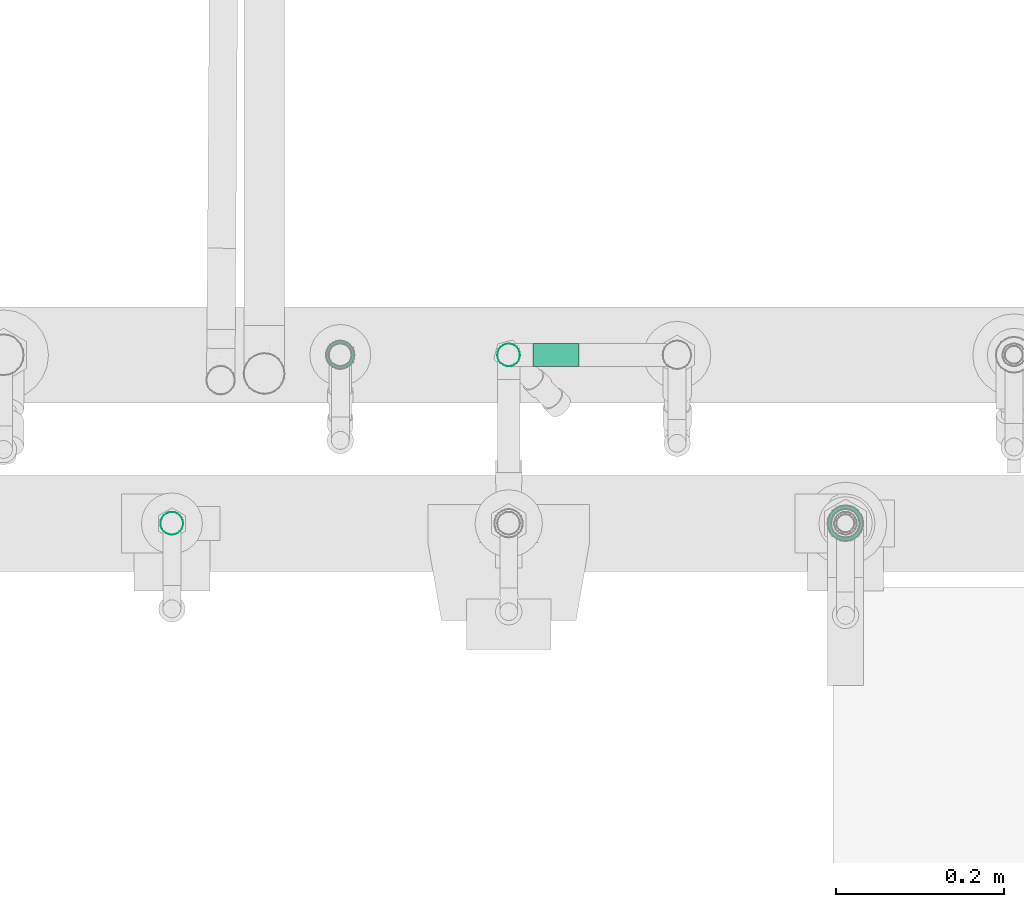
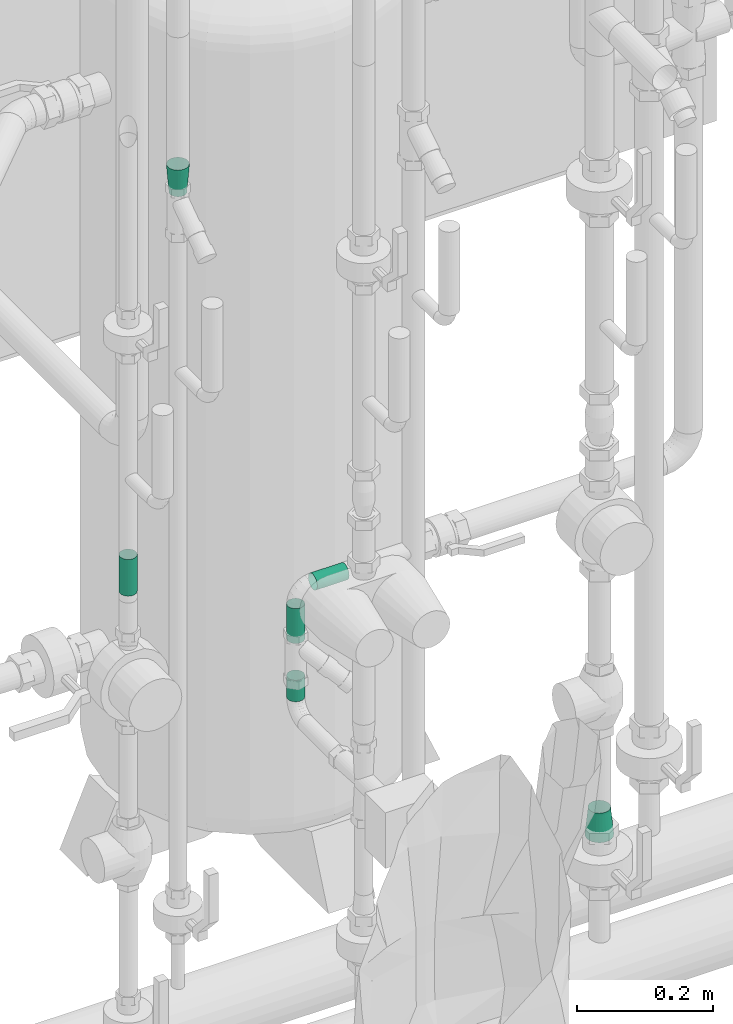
# One storey, part 346 of 374: 4 flow segments, 2 flow fittings.
"""IFC2X3 building model written with IfcOpenShell, lengths in metres."""

from ifc_helpers import new_model, si_unit, direction, origin, place, context, subcontext, project, spatial, open_shell, surface_model, source, transform, mapped, element, save


model = new_model("IFC2X3")

# Units and contexts
model_context = context("Model", 3, precision=1e-05, world=origin(), true_north=direction((-0.4480736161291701, 0.8939966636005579)))
body_context = subcontext(model_context, "Body", "Model", "MODEL_VIEW")
ifc_project = project(units=[si_unit("LENGTHUNIT", "METRE"), si_unit("AREAUNIT", "SQUARE_METRE"), si_unit("VOLUMEUNIT", "CUBIC_METRE"), si_unit("PLANEANGLEUNIT", "RADIAN"), si_unit("THERMODYNAMICTEMPERATUREUNIT", "KELVIN"), si_unit("MASSUNIT", "GRAM", prefix="KILO"), si_unit("TIMEUNIT", "SECOND")], contexts=[model_context])

# Site, building, storey
site_placement = place(None, origin())
site = spatial("IfcSite", under=ifc_project, at=site_placement, Name="Site 1", CompositionType="ELEMENT")
building_placement = place(site_placement, origin())
building = spatial("IfcBuilding", under=site, at=building_placement, Name="Undefined", CompositionType="ELEMENT")
storey_placement = place(building_placement, origin())
storey = spatial("IfcBuildingStorey", under=building, at=storey_placement, Name="Rez de chauss\x8ee", CompositionType="ELEMENT", Elevation=0.0)

# Flow segment
shared_shape_1 = source(origin(), body_context, "Body", "SurfaceModel", [
    surface_model("IfcFaceBasedSurfaceModel", [(0.0, 0.0035111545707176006, 0.0), (0.0, 0.0, 0.0), (0.03853503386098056, 0.0, -7.105427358e-15), (0.03853503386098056, 0.003511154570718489, -7.105427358e-15), (0.0, -0.003391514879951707, -0.0009087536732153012), (0.03853503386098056, -0.003391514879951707, -0.0009087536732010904), (0.0, -0.006432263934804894, -0.0026643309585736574), (0.03853503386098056, -0.006432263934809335, -0.0026643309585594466), (0.0, -0.00891502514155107, -0.005147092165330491), (0.03853503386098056, -0.008915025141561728, -0.005147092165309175), (0.0, -0.010670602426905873, -0.008187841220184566), (0.03853503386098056, -0.010670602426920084, -0.00818784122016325), (0.0, -0.011579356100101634, -0.01157935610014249), (0.03853503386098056, -0.011579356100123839, -0.011579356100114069), (0.0, -0.011579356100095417, -0.015090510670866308), (0.03853503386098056, -0.011579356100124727, -0.015090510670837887), (0.0, -0.010670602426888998, -0.018482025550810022), (0.03853503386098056, -0.01067060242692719, -0.0184820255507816), (0.0, -0.008915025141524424, -0.021522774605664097), (0.03853503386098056, -0.008915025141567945, -0.02152277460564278), (0.0, -0.006432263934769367, -0.02400553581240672), (0.03853503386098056, -0.006432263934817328, -0.02400553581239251), (0.0, -0.0033915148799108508, -0.025761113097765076), (0.03853503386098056, -0.0033915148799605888, -0.025761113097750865), (0.0, 4.2632564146e-14, -0.026669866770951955), (0.03853503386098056, -1.1546319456e-14, -0.02666986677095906), (0.0, 0.0035111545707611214, -0.026669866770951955), (0.03853503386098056, 0.0035111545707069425, -0.026669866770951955), (0.0, 0.006902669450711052, -0.02576111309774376), (0.03853503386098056, 0.006902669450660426, -0.02576111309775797), (0.0, 0.00994341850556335, -0.024005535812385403), (0.03853503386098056, 0.009943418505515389, -0.024005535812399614), (0.0, 0.012426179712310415, -0.02152277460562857), (0.03853503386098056, 0.012426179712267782, -0.021522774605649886), (0.0, 0.014181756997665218, -0.018482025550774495), (0.03853503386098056, 0.014181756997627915, -0.018482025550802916), (0.0, 0.015090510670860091, -0.01509051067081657), (0.03853503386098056, 0.01509051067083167, -0.015090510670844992), (0.0, 0.015090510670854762, -0.011579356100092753), (0.03853503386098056, 0.015090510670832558, -0.01157935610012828), (0.0, 0.014181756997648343, -0.00818784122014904), (0.03853503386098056, 0.014181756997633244, -0.00818784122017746), (0.0, 0.012426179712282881, -0.005147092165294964), (0.03853503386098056, 0.012426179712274, -0.0051470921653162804), (0.0, 0.009943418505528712, -0.002664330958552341), (0.03853503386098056, 0.009943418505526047, -0.002664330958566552), (0.0, 0.006902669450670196, -0.0009087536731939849), (0.03853503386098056, 0.006902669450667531, -0.0009087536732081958)], [open_shell([[[0, 1, 2, 3]], [[1, 4, 5, 2]], [[4, 6, 7, 5]], [[6, 8, 9, 7]], [[8, 10, 11, 9]], [[10, 12, 13, 11]], [[12, 14, 15, 13]], [[14, 16, 17, 15]], [[16, 18, 19, 17]], [[18, 20, 21, 19]], [[20, 22, 23, 21]], [[22, 24, 25, 23]], [[24, 26, 27, 25]], [[26, 28, 29, 27]], [[28, 30, 31, 29]], [[30, 32, 33, 31]], [[32, 34, 35, 33]], [[34, 36, 37, 35]], [[36, 38, 39, 37]], [[38, 40, 41, 39]], [[40, 42, 43, 41]], [[42, 44, 45, 43]], [[44, 46, 47, 45]], [[46, 0, 3, 47]]])]),
])
flow_segment_1_placement = place(storey_placement, origin())
element("IfcFlowSegment", 1, at=flow_segment_1_placement, inside=storey, Name="Tube acier d'après DIN 2448", ObjectType="Tube acier d'après DIN 2448", context=body_context, shape_type="MappedRepresentation", body=[
    mapped(shared_shape_1, transform((53.2445703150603, 10.914555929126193, 0.8053512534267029), x_axis=(0.0, 0.0, 1.0), y_axis=(-0.13052619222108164, 0.9914448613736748, 0.0), z_axis=(-0.9914448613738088, -0.13052619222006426, 0.0))),
])

# Flow fittings
shared_shape_2 = source(origin(), body_context, "Body", "SurfaceModel", [
    surface_model("IfcFaceBasedSurfaceModel", [(0.0, 0.0, 0.0), (0.005534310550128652, 0.0, 0.0), (0.005534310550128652, 0.004604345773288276, 0.0), (-8.8817842e-16, 0.004604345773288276, 7.105427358e-15), (0.010880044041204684, 0.0, -0.0014323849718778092), (0.010880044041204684, 0.004604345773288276, -0.0014323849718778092), (0.015672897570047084, 0.0, -0.004199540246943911), (0.015672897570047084, 0.004604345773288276, -0.004199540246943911), (0.01958624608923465, 0.0, -0.008112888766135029), (0.01958624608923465, 0.004604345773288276, -0.008112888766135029), (0.022353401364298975, 0.0, -0.012905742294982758), (0.022353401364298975, 0.004604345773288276, -0.012905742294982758), (0.023785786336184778, 0.0, -0.018251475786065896), (0.023785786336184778, 0.004604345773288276, -0.018251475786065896), (0.023785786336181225, 0.0, -0.02378578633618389), (0.023785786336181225, 0.004604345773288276, -0.02378578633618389), (0.022353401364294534, 0.0, -0.029131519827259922), (0.022353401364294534, 0.004604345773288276, -0.029131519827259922), (0.019586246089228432, 0.0, -0.033924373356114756), (0.019586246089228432, 0.004604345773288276, -0.033924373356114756), (0.01567289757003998, 0.0, -0.03783772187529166), (0.01567289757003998, 0.004604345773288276, -0.03783772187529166), (0.010880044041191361, 0.0, -0.040604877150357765), (0.010880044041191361, 0.004604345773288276, -0.040604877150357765), (0.005534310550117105, 0.0, -0.04203726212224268), (0.005534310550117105, 0.004604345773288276, -0.04203726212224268), (0.0, 6.4837024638e-14, -0.042037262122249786), (-1.5099033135e-14, 0.004604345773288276, -0.042037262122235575), (-0.0053457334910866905, 0.0, -0.040604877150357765), (-0.0053457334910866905, 0.004604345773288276, -0.040604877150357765), (-0.010138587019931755, 0.0, -0.03783772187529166), (-0.010138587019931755, 0.004604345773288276, -0.03783772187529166), (-0.01405193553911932, 0.0, -0.033924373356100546), (-0.01405193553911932, 0.004604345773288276, -0.033924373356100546), (-0.016819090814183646, 0.0, -0.029131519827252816), (-0.016819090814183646, 0.004604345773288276, -0.029131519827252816), (-0.01825147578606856, 0.0, -0.02378578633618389), (-0.01825147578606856, 0.004604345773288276, -0.02378578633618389), (-0.018251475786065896, 0.0, -0.018251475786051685), (-0.018251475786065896, 0.004604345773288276, -0.018251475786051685), (-0.016819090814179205, 0.0, -0.012905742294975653), (-0.016819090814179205, 0.004604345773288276, -0.012905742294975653), (-0.014051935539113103, 0.0, -0.008112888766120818), (-0.014051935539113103, 0.004604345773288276, -0.008112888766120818), (-0.010138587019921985, 0.0, -0.004199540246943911), (-0.010138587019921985, 0.004604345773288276, -0.004199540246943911), (-0.005345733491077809, 0.0, -0.0014323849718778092), (-0.005345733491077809, 0.004604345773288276, -0.0014323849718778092), (-0.013938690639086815, 0.04589512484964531, -0.018819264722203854), (-0.013938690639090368, 0.04589512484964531, -0.023217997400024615), (-0.012800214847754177, 0.04589512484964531, -0.014570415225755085), (-0.010600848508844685, 0.04589512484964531, -0.010761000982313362), (-0.007490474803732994, 0.04589512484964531, -0.007650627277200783), (-0.003681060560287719, 0.04589512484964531, -0.005451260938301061), (0.0005677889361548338, 0.04589512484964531, -0.004312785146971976), (0.004966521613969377, 0.04589512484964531, -0.004312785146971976), (0.009215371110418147, 0.04589512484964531, -0.005451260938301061), (0.013024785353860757, 0.04589512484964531, -0.007650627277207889), (0.01613515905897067, 0.04589512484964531, -0.010761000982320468), (0.0183345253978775, 0.04589512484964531, -0.014570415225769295), (0.01947300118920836, 0.04589512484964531, -0.018819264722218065), (0.019473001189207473, 0.04589512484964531, -0.023217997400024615), (0.018334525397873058, 0.04589512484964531, -0.02746684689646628), (0.016135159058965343, 0.04589512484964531, -0.03127626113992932), (0.01302478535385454, 0.04589512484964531, -0.03438663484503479), (0.009215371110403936, 0.04589512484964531, -0.03658600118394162), (0.004966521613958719, 0.04589512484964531, -0.03772447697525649), (0.0005677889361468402, 0.04589512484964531, -0.037724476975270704), (-0.0036810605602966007, 0.04589512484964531, -0.03658600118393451), (-0.007490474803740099, 0.04589512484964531, -0.03438663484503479), (-0.01060084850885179, 0.04589512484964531, -0.031276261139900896), (-0.012800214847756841, 0.04589512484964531, -0.027466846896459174), (0.004966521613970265, 0.050000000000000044, -0.004312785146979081), (0.0005677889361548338, 0.050000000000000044, -0.004312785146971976), (0.00921537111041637, 0.050000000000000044, -0.005451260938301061), (0.013024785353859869, 0.050000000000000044, -0.007650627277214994), (0.01613515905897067, 0.050000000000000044, -0.010761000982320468), (0.0183345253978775, 0.050000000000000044, -0.014570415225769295), (0.01947300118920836, 0.050000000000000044, -0.018819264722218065), (0.01947300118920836, 0.050000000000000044, -0.02321799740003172), (0.018334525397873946, 0.050000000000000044, -0.027466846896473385), (0.016135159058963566, 0.050000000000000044, -0.03127626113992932), (0.013024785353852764, 0.050000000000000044, -0.03438663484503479), (0.009215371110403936, 0.050000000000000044, -0.03658600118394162), (0.004966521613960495, 0.050000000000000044, -0.037724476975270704), (0.0005677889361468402, 0.050000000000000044, -0.037724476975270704), (-0.0036810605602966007, 0.050000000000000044, -0.03658600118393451), (-0.007490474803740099, 0.050000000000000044, -0.03438663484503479), (-0.010600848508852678, 0.050000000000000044, -0.031276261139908), (-0.01280021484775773, 0.050000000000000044, -0.02746684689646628), (-0.013938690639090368, 0.050000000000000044, -0.023217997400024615), (-0.013938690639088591, 0.050000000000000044, -0.018819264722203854), (-0.012800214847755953, 0.050000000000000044, -0.014570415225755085), (-0.010600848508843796, 0.050000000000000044, -0.010761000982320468), (-0.007490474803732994, 0.050000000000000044, -0.007650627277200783), (-0.0036810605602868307, 0.050000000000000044, -0.005451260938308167)], [open_shell([[[0, 1, 2, 3]], [[1, 4, 5, 2]], [[4, 6, 7, 5]], [[6, 8, 9, 7]], [[8, 10, 11, 9]], [[10, 12, 13, 11]], [[12, 14, 15, 13]], [[14, 16, 17, 15]], [[16, 18, 19, 17]], [[18, 20, 21, 19]], [[20, 22, 23, 21]], [[22, 24, 25, 23]], [[24, 26, 27, 25]], [[26, 28, 29, 27]], [[28, 30, 31, 29]], [[30, 32, 33, 31]], [[32, 34, 35, 33]], [[34, 36, 37, 35]], [[36, 38, 39, 37]], [[38, 40, 41, 39]], [[40, 42, 43, 41]], [[42, 44, 45, 43]], [[44, 46, 47, 45]], [[46, 0, 3, 47]], [[37, 39, 48, 49]], [[39, 41, 50, 48]], [[41, 43, 51, 50]], [[43, 45, 52, 51]], [[45, 47, 53, 52]], [[47, 3, 54, 53]], [[3, 2, 55, 54]], [[2, 5, 56, 55]], [[5, 7, 57, 56]], [[7, 9, 58, 57]], [[9, 11, 59, 58]], [[11, 13, 60, 59]], [[13, 15, 61, 60]], [[15, 17, 62, 61]], [[17, 19, 63, 62]], [[19, 21, 64, 63]], [[21, 23, 65, 64]], [[23, 25, 66, 65]], [[25, 27, 67, 66]], [[27, 29, 68, 67]], [[29, 31, 69, 68]], [[31, 33, 70, 69]], [[33, 35, 71, 70]], [[35, 37, 49, 71]], [[54, 55, 72, 73]], [[55, 56, 74, 72]], [[56, 57, 75, 74]], [[57, 58, 76, 75]], [[58, 59, 77, 76]], [[59, 60, 78, 77]], [[60, 61, 79, 78]], [[61, 62, 80, 79]], [[62, 63, 81, 80]], [[63, 64, 82, 81]], [[64, 65, 83, 82]], [[65, 66, 84, 83]], [[66, 67, 85, 84]], [[67, 68, 86, 85]], [[68, 69, 87, 86]], [[69, 70, 88, 87]], [[70, 71, 89, 88]], [[71, 49, 90, 89]], [[49, 48, 91, 90]], [[48, 50, 92, 91]], [[50, 51, 93, 92]], [[51, 52, 94, 93]], [[52, 53, 95, 94]], [[53, 54, 73, 95]]])]),
])
flow_fitting_1_placement = place(storey_placement, origin())
element("IfcFlowFitting", 2, at=flow_fitting_1_placement, inside=storey, Name="Réduction", ObjectType="Réduction", context=body_context, shape_type="MappedRepresentation", body=[
    mapped(shared_shape_2, transform((53.636362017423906, 10.718037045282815, 0.53895), x_axis=(0.13052619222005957, -0.9914448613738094, 0.0), y_axis=(0.0, 0.0, 1.0), z_axis=(-0.9914448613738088, -0.13052619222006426, 0.0))),
])
shared_shape_3 = source(origin(), body_context, "Body", "SurfaceModel", [
    surface_model("IfcFaceBasedSurfaceModel", [(0.0, 0.0, 0.0), (0.0035111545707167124, 0.0, 0.0), (0.0035111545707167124, 0.0032802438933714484, 0.0), (-1.776356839e-15, 0.0032802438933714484, 7.105427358e-15), (0.006902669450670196, 0.0, -0.0009087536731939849), (0.006902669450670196, 0.0032802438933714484, -0.0009087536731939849), (0.009943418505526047, 0.0, -0.002664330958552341), (0.009943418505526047, 0.0032802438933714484, -0.002664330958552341), (0.01242617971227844, 0.0, -0.00514709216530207), (0.01242617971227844, 0.0032802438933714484, -0.00514709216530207), (0.014181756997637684, 0.0, -0.00818784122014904), (0.014181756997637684, 0.0032802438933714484, -0.00818784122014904), (0.01509051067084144, 0.0, -0.011579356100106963), (0.01509051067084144, 0.0032802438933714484, -0.011579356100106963), (0.015090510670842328, 0.0, -0.015090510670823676), (0.015090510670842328, 0.0032802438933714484, -0.015090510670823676), (0.014181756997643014, 0.0, -0.018482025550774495), (0.014181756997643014, 0.0032802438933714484, -0.018482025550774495), (0.01242617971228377, 0.0, -0.021522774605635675), (0.01242617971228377, 0.0032802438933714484, -0.021522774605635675), (0.009943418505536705, 0.0, -0.024005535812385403), (0.009943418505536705, 0.0032802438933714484, -0.024005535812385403), (0.006902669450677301, 0.0, -0.02576111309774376), (0.006902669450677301, 0.0032802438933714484, -0.02576111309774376), (0.0035111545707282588, 0.0, -0.02666986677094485), (0.0035111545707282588, 0.0032802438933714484, -0.02666986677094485), (0.0, 4.2632564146e-14, -0.026669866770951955), (9.769962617e-15, 0.0032802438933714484, -0.02666986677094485), (-0.003391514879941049, 0.0, -0.025761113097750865), (-0.003391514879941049, 0.0032802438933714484, -0.025761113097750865), (-0.006432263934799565, 0.0, -0.02400553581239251), (-0.006432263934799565, 0.0032802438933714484, -0.02400553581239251), (-0.008915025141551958, 0.0, -0.02152277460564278), (-0.008915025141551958, 0.0032802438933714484, -0.02152277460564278), (-0.010670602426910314, 0.0, -0.018482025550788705), (-0.010670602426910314, 0.0032802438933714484, -0.018482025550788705), (-0.011579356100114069, 0.0, -0.015090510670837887), (-0.011579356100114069, 0.0032802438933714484, -0.015090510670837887), (-0.011579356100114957, 0.0, -0.011579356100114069), (-0.011579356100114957, 0.0032802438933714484, -0.011579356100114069), (-0.010670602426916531, 0.0, -0.008187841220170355), (-0.010670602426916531, 0.0032802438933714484, -0.008187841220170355), (-0.008915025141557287, 0.0, -0.005147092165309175), (-0.008915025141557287, 0.0032802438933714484, -0.005147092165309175), (-0.006432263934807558, 0.0, -0.0026643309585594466), (-0.006432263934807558, 0.0032802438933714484, -0.0026643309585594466), (-0.003391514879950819, 0.0, -0.0009087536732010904), (-0.003391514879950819, 0.0032802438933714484, -0.0009087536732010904), (-0.014950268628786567, 0.045895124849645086, -0.011135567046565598), (-0.01495026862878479, 0.045895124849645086, -0.015534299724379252), (-0.013811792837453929, 0.045895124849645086, -0.006886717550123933), (-0.011612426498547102, 0.045895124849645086, -0.0030773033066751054), (-0.008502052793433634, 0.045895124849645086, 3.307039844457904e-05), (-0.0046926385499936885, 0.045895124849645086, 0.0022324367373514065), (-0.00044378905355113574, 0.045895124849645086, 0.0033709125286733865), (0.003954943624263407, 0.045895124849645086, 0.0033709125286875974), (0.008203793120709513, 0.045895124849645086, 0.002232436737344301), (0.012013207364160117, 0.0458951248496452, 3.307039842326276e-05), (0.015123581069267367, 0.045895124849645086, -0.003077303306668), (0.017322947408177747, 0.045895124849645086, -0.006886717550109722), (0.018461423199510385, 0.045895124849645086, -0.011135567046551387), (0.018461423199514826, 0.045895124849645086, -0.015534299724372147), (0.017322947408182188, 0.045895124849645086, -0.01978314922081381), (0.015123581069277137, 0.045895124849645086, -0.02359256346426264), (0.012013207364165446, 0.045895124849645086, -0.026702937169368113), (0.00820379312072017, 0.045895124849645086, -0.02890230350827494), (0.00395494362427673, 0.045895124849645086, -0.03004077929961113), (-0.00044378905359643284, 0.0458951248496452, -0.030040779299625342), (-0.004692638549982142, 0.045895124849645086, -0.028902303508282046), (-0.008502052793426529, 0.045895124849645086, -0.026702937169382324), (-0.011612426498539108, 0.045895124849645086, -0.023592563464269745), (-0.013811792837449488, 0.045895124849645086, -0.019783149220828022), (0.0039549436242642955, 0.050000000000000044, 0.003370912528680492), (-0.00044378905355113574, 0.050000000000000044, 0.0033709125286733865), (0.008203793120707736, 0.050000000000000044, 0.002232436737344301), (0.012013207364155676, 0.04589512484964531, 3.3070398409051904e-05), (0.012013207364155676, 0.050000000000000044, 3.3070398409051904e-05), (0.015123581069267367, 0.050000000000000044, -0.003077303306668), (0.017322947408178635, 0.050000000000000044, -0.006886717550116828), (0.018461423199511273, 0.050000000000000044, -0.011135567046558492), (0.018461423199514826, 0.050000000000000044, -0.015534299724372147), (0.017322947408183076, 0.050000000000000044, -0.019783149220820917), (0.015123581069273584, 0.050000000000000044, -0.02359256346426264), (0.012013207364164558, 0.050000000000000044, -0.026702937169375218), (0.008203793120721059, 0.050000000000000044, -0.028902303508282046), (0.003954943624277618, 0.050000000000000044, -0.030040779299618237), (-0.000443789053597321, 0.04999999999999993, -0.030040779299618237), (-0.004692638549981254, 0.050000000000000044, -0.02890230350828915), (-0.008502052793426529, 0.050000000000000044, -0.026702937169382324), (-0.01161242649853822, 0.050000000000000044, -0.02359256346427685), (-0.013811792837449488, 0.050000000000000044, -0.019783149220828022), (-0.014950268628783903, 0.050000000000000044, -0.015534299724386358), (-0.014950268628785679, 0.050000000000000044, -0.011135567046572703), (-0.013811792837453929, 0.050000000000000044, -0.006886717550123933), (-0.011612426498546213, 0.050000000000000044, -0.003077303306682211), (-0.008502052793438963, 0.0458951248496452, 3.307039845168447e-05), (-0.008502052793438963, 0.04999999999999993, 3.307039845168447e-05), (-0.0046926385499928, 0.050000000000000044, 0.002232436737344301)], [open_shell([[[0, 1, 2, 3]], [[1, 4, 5, 2]], [[4, 6, 7, 5]], [[6, 8, 9, 7]], [[8, 10, 11, 9]], [[10, 12, 13, 11]], [[12, 14, 15, 13]], [[14, 16, 17, 15]], [[16, 18, 19, 17]], [[18, 20, 21, 19]], [[20, 22, 23, 21]], [[22, 24, 25, 23]], [[24, 26, 27, 25]], [[26, 28, 29, 27]], [[28, 30, 31, 29]], [[30, 32, 33, 31]], [[32, 34, 35, 33]], [[34, 36, 37, 35]], [[36, 38, 39, 37]], [[38, 40, 41, 39]], [[40, 42, 43, 41]], [[42, 44, 45, 43]], [[44, 46, 47, 45]], [[46, 0, 3, 47]], [[37, 39, 48, 49]], [[39, 41, 50, 48]], [[41, 43, 51, 50]], [[43, 45, 52, 51]], [[45, 47, 53, 52]], [[47, 3, 54, 53]], [[3, 2, 55, 54]], [[2, 5, 56, 55]], [[5, 7, 57, 56]], [[7, 9, 58, 57]], [[9, 11, 59, 58]], [[11, 13, 60, 59]], [[13, 15, 61, 60]], [[15, 17, 62, 61]], [[17, 19, 63, 62]], [[19, 21, 64, 63]], [[21, 23, 65, 64]], [[23, 25, 66, 65]], [[25, 27, 67, 66]], [[27, 29, 68, 67]], [[29, 31, 69, 68]], [[31, 33, 70, 69]], [[33, 35, 71, 70]], [[35, 37, 49, 71]], [[54, 55, 72, 73]], [[55, 56, 74, 72]], [[56, 75, 76, 74]], [[75, 58, 77, 76]], [[58, 59, 78, 77]], [[59, 60, 79, 78]], [[60, 61, 80, 79]], [[61, 62, 81, 80]], [[62, 63, 82, 81]], [[63, 64, 83, 82]], [[64, 65, 84, 83]], [[65, 66, 85, 84]], [[66, 67, 86, 85]], [[67, 68, 87, 86]], [[68, 69, 88, 87]], [[69, 70, 89, 88]], [[70, 71, 90, 89]], [[71, 49, 91, 90]], [[49, 48, 92, 91]], [[48, 50, 93, 92]], [[50, 51, 94, 93]], [[51, 95, 96, 94]], [[95, 53, 97, 96]], [[53, 54, 73, 97]]])]),
])
flow_fitting_2_placement = place(storey_placement, origin())
element("IfcFlowFitting", 3, at=flow_fitting_2_placement, inside=storey, Name="Réduction", ObjectType="Réduction", context=body_context, shape_type="MappedRepresentation", body=[
    mapped(shared_shape_3, transform((53.07101201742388, 10.918037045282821, 1.7817733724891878), x_axis=(-0.13052619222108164, 0.9914448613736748, 0.0), y_axis=(0.0, 0.0, 1.0), z_axis=(0.9914448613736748, 0.13052619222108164, 0.0))),
])

# Flow segments
shared_shape_4 = source(origin(), body_context, "Body", "SurfaceModel", [
    surface_model("IfcFaceBasedSurfaceModel", [(0.0, 0.0035111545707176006, 0.0), (0.0, 0.0, 0.0), (0.06267050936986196, 0.0, 0.0), (0.06267050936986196, 0.0035111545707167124, 0.0), (0.0, -0.003391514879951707, -0.0009087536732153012), (0.06267050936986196, -0.0033915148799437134, -0.0009087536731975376), (0.0, -0.006432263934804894, -0.0026643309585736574), (0.06267050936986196, -0.006432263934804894, -0.0026643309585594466), (0.0, -0.00891502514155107, -0.005147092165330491), (0.06267050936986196, -0.008915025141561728, -0.005147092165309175), (0.0, -0.010670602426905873, -0.008187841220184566), (0.06267050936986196, -0.010670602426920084, -0.00818784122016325), (0.0, -0.011579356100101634, -0.01157935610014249), (0.06267050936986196, -0.011579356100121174, -0.011579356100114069), (0.0, -0.011579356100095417, -0.015090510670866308), (0.06267050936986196, -0.011579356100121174, -0.015090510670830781), (0.0, -0.010670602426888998, -0.018482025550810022), (0.06267050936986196, -0.01067060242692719, -0.018482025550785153), (0.0, -0.008915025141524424, -0.021522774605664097), (0.06267050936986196, -0.008915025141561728, -0.02152277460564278), (0.0, -0.006432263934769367, -0.02400553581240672), (0.06267050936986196, -0.006432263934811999, -0.02400553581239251), (0.0, -0.0033915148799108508, -0.025761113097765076), (0.06267050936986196, -0.0033915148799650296, -0.025761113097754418), (0.0, 4.2632564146e-14, -0.026669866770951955), (0.06267050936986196, -1.4210854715e-14, -0.026669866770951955), (0.0, 0.0035111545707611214, -0.026669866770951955), (0.06267050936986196, 0.003511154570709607, -0.02666986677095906), (0.0, 0.006902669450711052, -0.02576111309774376), (0.06267050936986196, 0.006902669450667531, -0.02576111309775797), (0.0, 0.00994341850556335, -0.024005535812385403), (0.06267050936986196, 0.009943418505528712, -0.024005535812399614), (0.0, 0.012426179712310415, -0.02152277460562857), (0.06267050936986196, 0.01242617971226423, -0.021522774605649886), (0.0, 0.014181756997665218, -0.018482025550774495), (0.06267050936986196, 0.014181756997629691, -0.018482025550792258), (0.0, 0.015090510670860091, -0.01509051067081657), (0.06267050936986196, 0.015090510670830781, -0.015090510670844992), (0.0, 0.015090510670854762, -0.011579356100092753), (0.06267050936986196, 0.015090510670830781, -0.011579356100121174), (0.0, 0.014181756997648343, -0.00818784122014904), (0.06267050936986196, 0.014181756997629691, -0.008187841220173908), (0.0, 0.012426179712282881, -0.005147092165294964), (0.06267050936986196, 0.012426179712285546, -0.0051470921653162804), (0.0, 0.009943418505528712, -0.002664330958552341), (0.06267050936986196, 0.009943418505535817, -0.0026643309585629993), (0.0, 0.006902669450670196, -0.0009087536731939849), (0.06267050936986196, 0.006902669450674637, -0.0009087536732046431)], [open_shell([[[0, 1, 2, 3]], [[1, 4, 5, 2]], [[4, 6, 7, 5]], [[6, 8, 9, 7]], [[8, 10, 11, 9]], [[10, 12, 13, 11]], [[12, 14, 15, 13]], [[14, 16, 17, 15]], [[16, 18, 19, 17]], [[18, 20, 21, 19]], [[20, 22, 23, 21]], [[22, 24, 25, 23]], [[24, 26, 27, 25]], [[26, 28, 29, 27]], [[28, 30, 31, 29]], [[30, 32, 33, 31]], [[32, 34, 35, 33]], [[34, 36, 37, 35]], [[36, 38, 39, 37]], [[38, 40, 41, 39]], [[40, 42, 43, 41]], [[42, 44, 45, 43]], [[44, 46, 47, 45]], [[46, 0, 3, 47]]])]),
])
flow_segment_2_placement = place(storey_placement, origin())
element("IfcFlowSegment", 4, at=flow_segment_2_placement, inside=storey, Name="Tube acier d'après DIN 2448", ObjectType="Tube acier d'après DIN 2448", context=body_context, shape_type="MappedRepresentation", body=[
    mapped(shared_shape_4, transform((53.25408090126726, 10.905045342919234, 0.9725567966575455), x_axis=(0.0, 0.0, -1.0), y_axis=(0.9914448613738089, -0.13052619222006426, 0.0), z_axis=(-0.13052619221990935, -0.9914448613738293, 0.0))),
])
shared_shape_5 = source(origin(), body_context, "Body", "SurfaceModel", [
    surface_model("IfcFaceBasedSurfaceModel", [(0.0, 0.0035111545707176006, 0.0), (0.0, 0.0, 0.0), (0.054150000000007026, -4.4408921e-16, 0.0), (0.054150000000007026, 0.003511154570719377, -1.776356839e-15), (0.0, -0.003391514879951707, -0.0009087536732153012), (0.054150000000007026, -0.003391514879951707, -0.0009087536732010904), (0.0, -0.006432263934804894, -0.0026643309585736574), (0.054150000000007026, -0.006432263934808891, -0.0026643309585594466), (0.0, -0.00891502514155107, -0.005147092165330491), (0.054150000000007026, -0.008915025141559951, -0.005147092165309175), (0.0, -0.010670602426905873, -0.008187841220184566), (0.054150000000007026, -0.010670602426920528, -0.008187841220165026), (0.0, -0.011579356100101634, -0.01157935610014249), (0.054150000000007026, -0.01157935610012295, -0.011579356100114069), (0.0, -0.011579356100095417, -0.015090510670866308), (0.054150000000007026, -0.011579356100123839, -0.015090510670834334), (0.0, -0.010670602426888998, -0.018482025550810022), (0.054150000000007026, -0.010670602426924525, -0.018482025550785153), (0.0, -0.008915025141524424, -0.021522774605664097), (0.054150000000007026, -0.008915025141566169, -0.021522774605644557), (0.0, -0.006432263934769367, -0.02400553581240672), (0.054150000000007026, -0.00643226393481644, -0.024005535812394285), (0.0, -0.0033915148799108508, -0.025761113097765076), (0.054150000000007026, -0.0033915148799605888, -0.025761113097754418), (0.0, 4.2632564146e-14, -0.026669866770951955), (0.054150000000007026, -9.769962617e-15, -0.026669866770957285), (0.0, 0.0035111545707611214, -0.026669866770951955), (0.054150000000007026, 0.003511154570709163, -0.026669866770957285), (0.0, 0.006902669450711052, -0.02576111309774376), (0.054150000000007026, 0.006902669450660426, -0.02576111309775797), (0.0, 0.00994341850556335, -0.024005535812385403), (0.054150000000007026, 0.00994341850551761, -0.02400553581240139), (0.0, 0.012426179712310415, -0.02152277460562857), (0.054150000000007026, 0.01242617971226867, -0.021522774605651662), (0.0, 0.014181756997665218, -0.018482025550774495), (0.054150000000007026, 0.014181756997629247, -0.018482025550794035), (0.0, 0.015090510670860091, -0.01509051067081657), (0.054150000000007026, 0.01509051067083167, -0.015090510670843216), (0.0, 0.015090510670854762, -0.011579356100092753), (0.054150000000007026, 0.015090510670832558, -0.011579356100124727), (0.0, 0.014181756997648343, -0.00818784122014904), (0.054150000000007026, 0.014181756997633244, -0.008187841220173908), (0.0, 0.012426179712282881, -0.005147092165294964), (0.054150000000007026, 0.012426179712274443, -0.0051470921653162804), (0.0, 0.009943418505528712, -0.002664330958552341), (0.054150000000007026, 0.009943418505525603, -0.0026643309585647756), (0.0, 0.006902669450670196, -0.0009087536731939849), (0.054150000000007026, 0.006902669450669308, -0.0009087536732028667)], [open_shell([[[0, 1, 2, 3]], [[1, 4, 5, 2]], [[4, 6, 7, 5]], [[6, 8, 9, 7]], [[8, 10, 11, 9]], [[10, 12, 13, 11]], [[12, 14, 15, 13]], [[14, 16, 17, 15]], [[16, 18, 19, 17]], [[18, 20, 21, 19]], [[20, 22, 23, 21]], [[22, 24, 25, 23]], [[24, 26, 27, 25]], [[26, 28, 29, 27]], [[28, 30, 31, 29]], [[30, 32, 33, 31]], [[32, 34, 35, 33]], [[34, 36, 37, 35]], [[36, 38, 39, 37]], [[38, 40, 41, 39]], [[40, 42, 43, 41]], [[42, 44, 45, 43]], [[44, 46, 47, 45]], [[46, 0, 3, 47]]])]),
])
flow_segment_3_placement = place(storey_placement, origin())
element("IfcFlowSegment", 5, at=flow_segment_3_placement, inside=storey, Name="Tube acier d'après DIN 2448", ObjectType="Tube acier d'après DIN 2448", context=body_context, shape_type="MappedRepresentation", body=[
    mapped(shared_shape_5, transform((53.34071201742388, 10.90504534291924, 1.0050379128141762), x_axis=(-1.0, 0.0, 0.0), y_axis=(9.56658874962e-13, -0.13052619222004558, -0.9914448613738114), z_axis=(7.266545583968e-12, -0.9914448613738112, 0.13052619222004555))),
])
shared_shape_6 = source(origin(), body_context, "Body", "SurfaceModel", [
    surface_model("IfcFaceBasedSurfaceModel", [(0.0, 0.0035111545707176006, 0.0), (0.0, 0.0, 0.0), (0.06600000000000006, -1.776356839e-15, 0.0), (0.06600000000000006, 0.0035111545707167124, -7.105427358e-15), (0.0, -0.003391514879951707, -0.0009087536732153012), (0.06600000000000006, -0.0033915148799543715, -0.0009087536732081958), (0.0, -0.006432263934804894, -0.0026643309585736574), (0.06600000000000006, -0.006432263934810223, -0.0026643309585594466), (0.0, -0.00891502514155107, -0.005147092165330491), (0.06600000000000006, -0.008915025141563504, -0.0051470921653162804), (0.0, -0.010670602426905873, -0.008187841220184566), (0.06600000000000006, -0.010670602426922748, -0.00818784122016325), (0.0, -0.011579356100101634, -0.01157935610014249), (0.06600000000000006, -0.011579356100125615, -0.011579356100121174), (0.0, -0.011579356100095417, -0.015090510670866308), (0.06600000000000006, -0.011579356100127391, -0.015090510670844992), (0.0, -0.010670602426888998, -0.018482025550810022), (0.06600000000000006, -0.01067060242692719, -0.0184820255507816), (0.0, -0.008915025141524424, -0.021522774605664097), (0.06600000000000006, -0.008915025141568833, -0.021522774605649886), (0.0, -0.006432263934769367, -0.02400553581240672), (0.06600000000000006, -0.006432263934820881, -0.024005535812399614), (0.0, -0.0033915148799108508, -0.025761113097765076), (0.06600000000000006, -0.003391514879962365, -0.025761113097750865), (0.0, 4.2632564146e-14, -0.026669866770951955), (0.06600000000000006, -1.2434497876e-14, -0.02666986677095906), (0.0, 0.0035111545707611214, -0.026669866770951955), (0.06600000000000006, 0.003511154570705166, -0.02666986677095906), (0.0, 0.006902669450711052, -0.02576111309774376), (0.06600000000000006, 0.006902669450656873, -0.025761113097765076), (0.0, 0.00994341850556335, -0.024005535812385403), (0.06600000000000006, 0.0099434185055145, -0.02400553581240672), (0.0, 0.012426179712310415, -0.02152277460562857), (0.06600000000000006, 0.012426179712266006, -0.021522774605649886), (0.0, 0.014181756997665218, -0.018482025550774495), (0.06600000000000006, 0.01418175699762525, -0.018482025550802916), (0.0, 0.015090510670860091, -0.01509051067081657), (0.06600000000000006, 0.015090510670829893, -0.015090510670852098), (0.0, 0.015090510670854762, -0.011579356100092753), (0.06600000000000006, 0.015090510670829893, -0.011579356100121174), (0.0, 0.014181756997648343, -0.00818784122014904), (0.06600000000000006, 0.014181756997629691, -0.008187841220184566), (0.0, 0.012426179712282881, -0.005147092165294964), (0.06600000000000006, 0.012426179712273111, -0.0051470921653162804), (0.0, 0.009943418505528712, -0.002664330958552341), (0.06600000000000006, 0.009943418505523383, -0.0026643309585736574), (0.0, 0.006902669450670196, -0.0009087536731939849), (0.06600000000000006, 0.006902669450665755, -0.0009087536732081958)], [open_shell([[[0, 1, 2, 3]], [[1, 4, 5, 2]], [[4, 6, 7, 5]], [[6, 8, 9, 7]], [[8, 10, 11, 9]], [[10, 12, 13, 11]], [[12, 14, 15, 13]], [[14, 16, 17, 15]], [[16, 18, 19, 17]], [[18, 20, 21, 19]], [[20, 22, 23, 21]], [[22, 24, 25, 23]], [[24, 26, 27, 25]], [[26, 28, 29, 27]], [[28, 30, 31, 29]], [[30, 32, 33, 31]], [[32, 34, 35, 33]], [[34, 36, 37, 35]], [[36, 38, 39, 37]], [[38, 40, 41, 39]], [[40, 42, 43, 41]], [[42, 44, 45, 43]], [[44, 46, 47, 45]], [[46, 0, 3, 47]]])]),
])
flow_segment_4_placement = place(storey_placement, origin())
element("IfcFlowSegment", 6, at=flow_segment_4_placement, inside=storey, Name="Tube acier d'après DIN 2448", ObjectType="Tube acier d'après DIN 2448", context=body_context, shape_type="MappedRepresentation", body=[
    mapped(shared_shape_6, transform((52.8445703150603, 10.714555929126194, 1.2561475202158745), x_axis=(0.0, 0.0, 1.0), y_axis=(-0.13052619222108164, 0.9914448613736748, 0.0), z_axis=(-0.9914448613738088, -0.13052619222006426, 0.0))),
])

save(model, "model.ifc")
